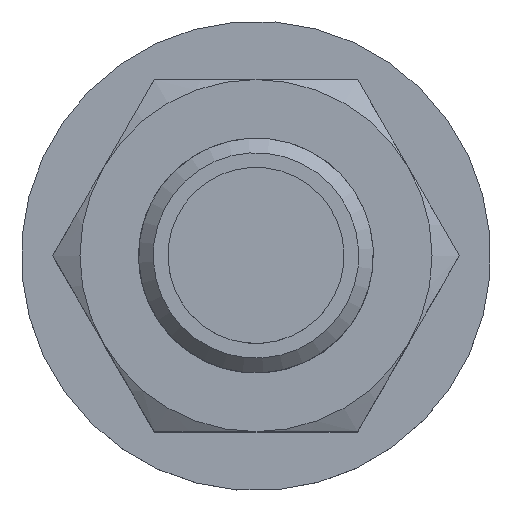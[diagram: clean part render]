
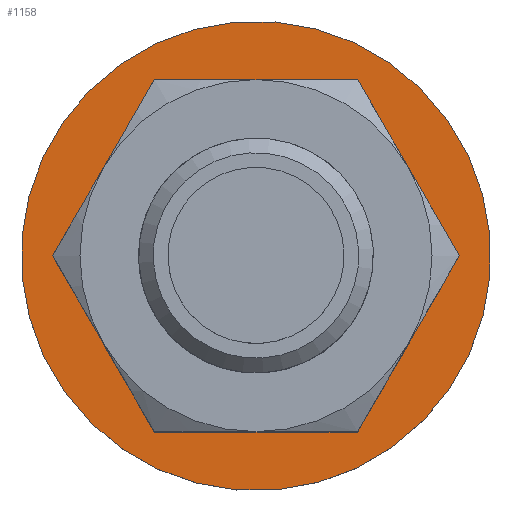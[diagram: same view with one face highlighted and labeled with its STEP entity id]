
A CAD part, top view. The second image highlights one B-rep face of the part: STEP entity #1158.
In plain terms, the highlighted planar face has unit normal (0, 0, 1).
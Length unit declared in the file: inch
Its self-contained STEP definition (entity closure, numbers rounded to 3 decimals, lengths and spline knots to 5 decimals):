
#196=FACE_BOUND('',#303,.T.);
#225=FACE_OUTER_BOUND('',#302,.T.);
#302=EDGE_LOOP('',(#733));
#303=EDGE_LOOP('',(#734,#735,#736,#737,#738,#739));
#408=CIRCLE('',#1238,0.5);
#409=CIRCLE('',#1239,0.375);
#410=CIRCLE('',#1240,0.375);
#411=CIRCLE('',#1241,0.375);
#412=CIRCLE('',#1242,0.375);
#413=CIRCLE('',#1243,0.375);
#414=CIRCLE('',#1244,0.375);
#473=VERTEX_POINT('',#1719);
#474=VERTEX_POINT('',#1721);
#475=VERTEX_POINT('',#1722);
#476=VERTEX_POINT('',#1724);
#477=VERTEX_POINT('',#1726);
#478=VERTEX_POINT('',#1728);
#479=VERTEX_POINT('',#1730);
#578=EDGE_CURVE('',#473,#473,#408,.T.);
#579=EDGE_CURVE('',#474,#475,#409,.T.);
#580=EDGE_CURVE('',#475,#476,#410,.T.);
#581=EDGE_CURVE('',#476,#477,#411,.T.);
#582=EDGE_CURVE('',#477,#478,#412,.T.);
#583=EDGE_CURVE('',#478,#479,#413,.T.);
#584=EDGE_CURVE('',#479,#474,#414,.T.);
#733=ORIENTED_EDGE('',*,*,#578,.T.);
#734=ORIENTED_EDGE('',*,*,#579,.T.);
#735=ORIENTED_EDGE('',*,*,#580,.T.);
#736=ORIENTED_EDGE('',*,*,#581,.T.);
#737=ORIENTED_EDGE('',*,*,#582,.T.);
#738=ORIENTED_EDGE('',*,*,#583,.T.);
#739=ORIENTED_EDGE('',*,*,#584,.T.);
#1043=PLANE('',#1237);
#1158=ADVANCED_FACE('',(#225,#196),#1043,.T.);
#1237=AXIS2_PLACEMENT_3D('',#1718,#1381,#1382);
#1238=AXIS2_PLACEMENT_3D('',#1720,#1383,#1384);
#1239=AXIS2_PLACEMENT_3D('',#1723,#1385,#1386);
#1240=AXIS2_PLACEMENT_3D('',#1725,#1387,#1388);
#1241=AXIS2_PLACEMENT_3D('',#1727,#1389,#1390);
#1242=AXIS2_PLACEMENT_3D('',#1729,#1391,#1392);
#1243=AXIS2_PLACEMENT_3D('',#1731,#1393,#1394);
#1244=AXIS2_PLACEMENT_3D('',#1732,#1395,#1396);
#1381=DIRECTION('center_axis',(0.,0.,
1.));
#1382=DIRECTION('ref_axis',(0.427,-0.904,0.));
#1383=DIRECTION('center_axis',(0.,0.,
1.));
#1384=DIRECTION('ref_axis',(-0.904,-0.427,0.));
#1385=DIRECTION('center_axis',(0.,0.,
-1.));
#1386=DIRECTION('ref_axis',(-0.5,-0.866,0.));
#1387=DIRECTION('center_axis',(0.,0.,
-1.));
#1388=DIRECTION('ref_axis',(-0.5,-0.866,0.));
#1389=DIRECTION('center_axis',(0.,0.,
-1.));
#1390=DIRECTION('ref_axis',(-0.5,-0.866,0.));
#1391=DIRECTION('center_axis',(0.,0.,
-1.));
#1392=DIRECTION('ref_axis',(-0.5,-0.866,0.));
#1393=DIRECTION('center_axis',(0.,0.,
-1.));
#1394=DIRECTION('ref_axis',(-0.5,-0.866,0.));
#1395=DIRECTION('center_axis',(0.,0.,
-1.));
#1396=DIRECTION('ref_axis',(-0.5,-0.866,0.));
#1718=CARTESIAN_POINT('Origin',(0.,0.,
4.063));
#1719=CARTESIAN_POINT('',(0.45208,0.21359,4.063));
#1720=CARTESIAN_POINT('Origin',(0.,0.,
4.063));
#1721=CARTESIAN_POINT('',(0.,0.375,4.063));
#1722=CARTESIAN_POINT('',(0.32476,0.1875,4.063));
#1723=CARTESIAN_POINT('Origin',(0.,0.,
4.063));
#1724=CARTESIAN_POINT('',(0.32476,-0.1875,4.063));
#1725=CARTESIAN_POINT('Origin',(0.,0.,
4.063));
#1726=CARTESIAN_POINT('',(0.,-0.375,4.063));
#1727=CARTESIAN_POINT('Origin',(0.,0.,
4.063));
#1728=CARTESIAN_POINT('',(-0.32476,-0.1875,4.063));
#1729=CARTESIAN_POINT('Origin',(0.,0.,
4.063));
#1730=CARTESIAN_POINT('',(-0.32476,0.1875,4.063));
#1731=CARTESIAN_POINT('Origin',(0.,0.,
4.063));
#1732=CARTESIAN_POINT('Origin',(0.,0.,
4.063));
